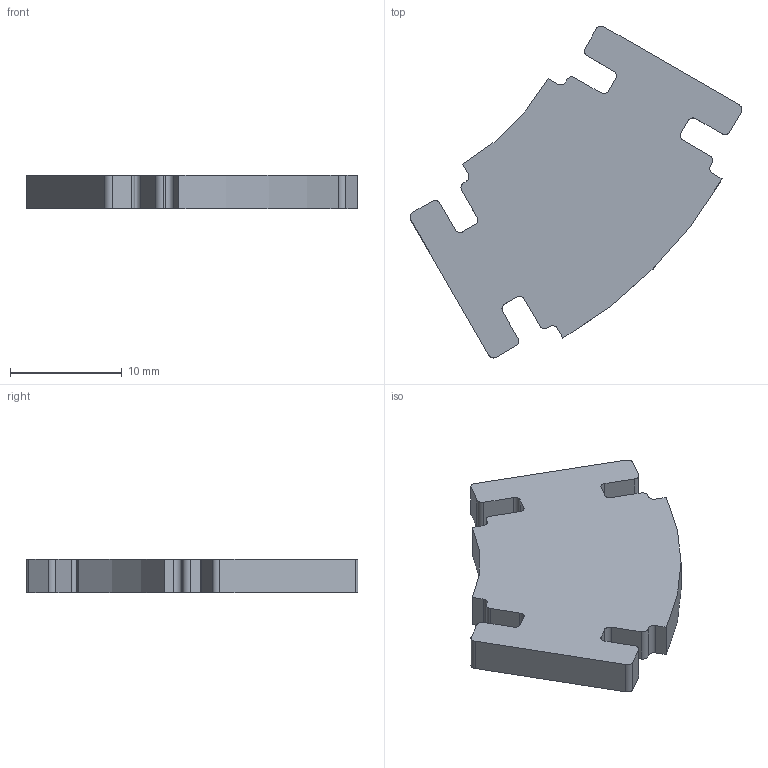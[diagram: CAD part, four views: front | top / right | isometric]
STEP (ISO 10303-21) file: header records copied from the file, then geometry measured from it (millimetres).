
FILE_DESCRIPTION(/* description */ (''),/* implementation_level */ '2;1');
FILE_NAME(/* name */ 'Z:\Diseños\Autodesk\FabAcademy\Semana3-45Angle.stp',/* time_stamp */ '2017-02-14T12:51:30-05:00',/* author */ ('diego'),/* organization */ (''),/* preprocessor_version */ 'ST-DEVELOPER v16.5',/* originating_system */ 'Autodesk Inventor 2017',/* authorisation */ '');
FILE_SCHEMA (('AUTOMOTIVE_DESIGN { 1 0 10303 214 3 1 1 }'));
Length unit declared in the file: millimetre
Products named in the file (1): Semana3-45Angle
Bounding box: 29.77 x 29.77 x 3 mm (x, y, z)
Volume: 1333.8 mm3; surface area: 1244.2 mm2
Topology: 1 solids, 1 shells, 54 faces, 208 edges, 208 vertices
Faces by surface type: plane 28, cylinder 26
Entity records: 2274 total; most frequent: CARTESIAN_POINT 471, DIRECTION 396, ORIENTED_EDGE 312, EDGE_CURVE 156, AXIS2_PLACEMENT_3D 133, LINE 130, VECTOR 130, VERTEX_POINT 104
